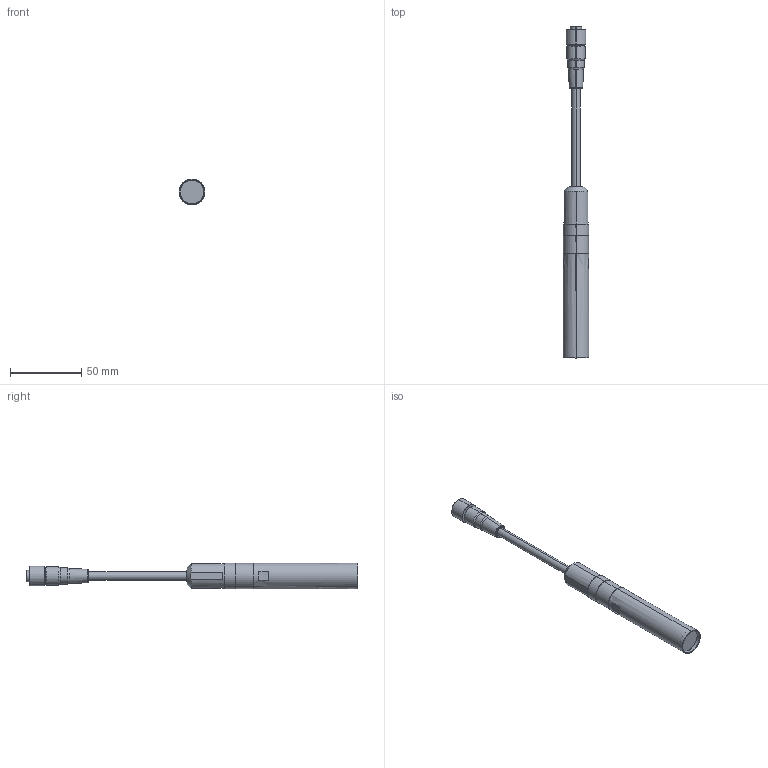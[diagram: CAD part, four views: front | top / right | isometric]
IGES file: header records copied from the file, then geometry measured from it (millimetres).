
Start section: SolidWorks IGES file using analytic representation for surfaces
Bounding box: 18 x 233 x 18 mm (x, y, z)
Surface area: 10727 mm2 (no closed solid volume)
Topology: 0 solids, 0 shells, 66 faces, 1078 edges, 1078 vertices
Faces by surface type: revolution 40, bspline 26
